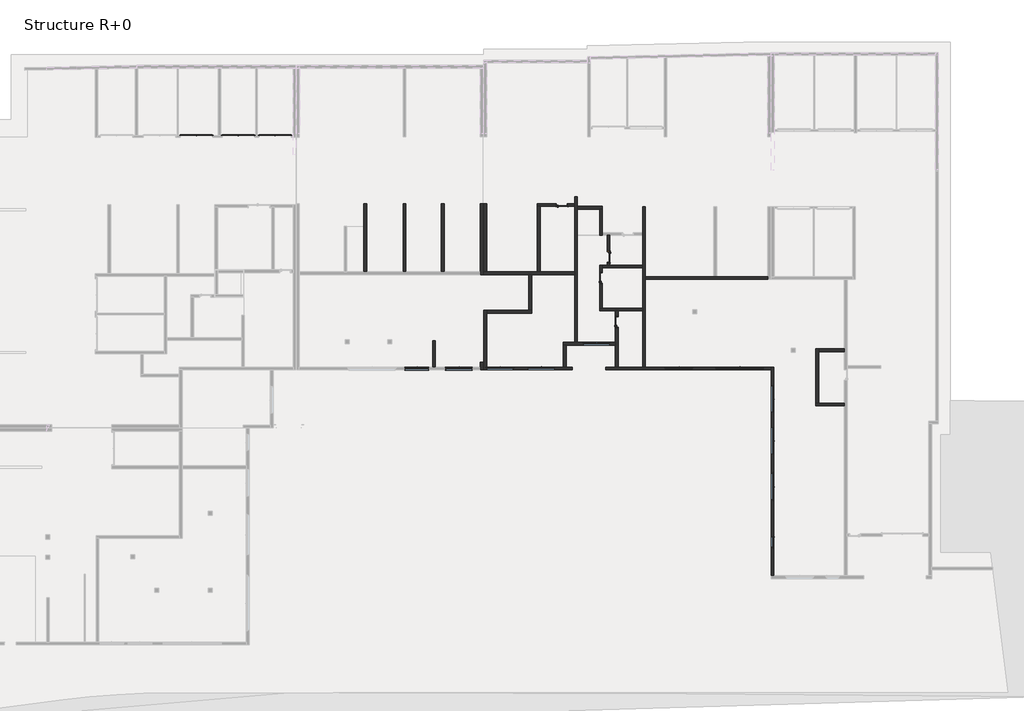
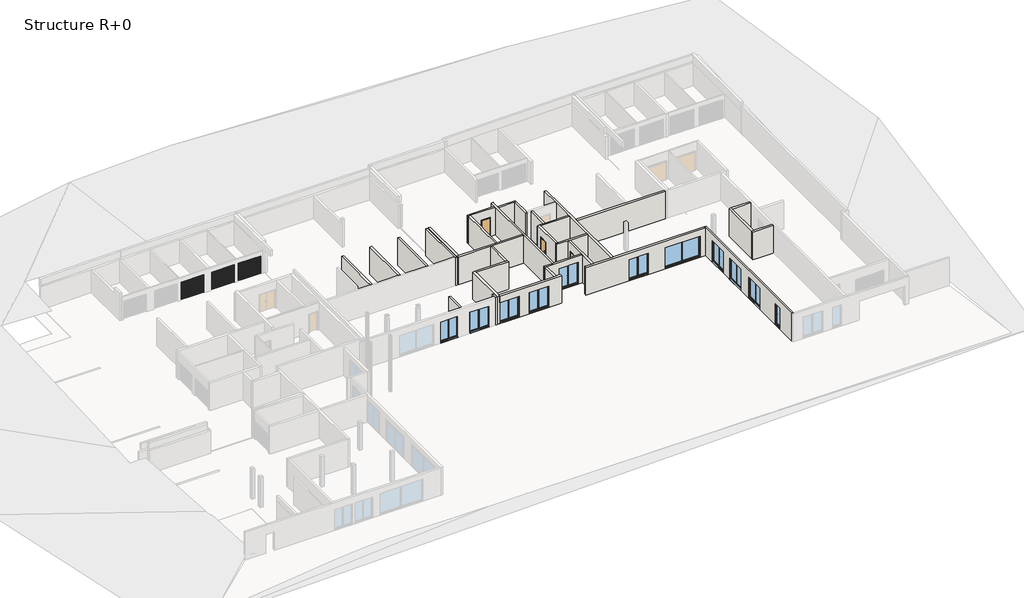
# One storey, part 3 of 5: 31 walls, 11 windows, 7 doors.
"""IFC4 building model written with IfcOpenShell, lengths in millimetres."""

from ifc_helpers import new_model, si_unit, frame, origin, origin_with_axes, place, context, project, spatial, polyline, outline, extrude, faceted_brep, transform, mapped, element, save
from components import door_2_4m_x_2m_ca442cef, int_simple_pp_0_83m_x_2_04m_d9e52805, int_simple_pp_0_83m_x_2_04m_469df17f, int_simple_pp_0_83m_x_2_04m_462b1650, window_0_80m_x_2_25m_5dfc30a4, window_1_80m_x_2_25m_6a560d0c, window_2_00m_x_2_35m_2ed9f70e, window_2m_x_2_25m_73eb5746, window_3_6m_x_2_25m_d801bdb7

model = new_model("IFC4")

# Units and contexts
model_context = context("Model", 3, world=origin())
ifc_project = project(units=[si_unit("LENGTHUNIT", "METRE", prefix="MILLI")], contexts=[model_context])

# Site, building, storey
site = spatial("IfcSite", under=ifc_project)
building = spatial("IfcBuilding", under=site)
storey = spatial("IfcBuildingStorey", under=building, Name="Structure R+0", Elevation=0.0)

# Doors
placement = place(None, origin())
door_2_4m_x_2m_shape = door_2_4m_x_2m_ca442cef(model_context)
element("IfcDoor", 1, ObjectType="Garage basculante : 2.4m x 2m", at=placement, inside=storey, context=model_context, shape_type="MappedRepresentation", body=[
    mapped(door_2_4m_x_2m_shape, transform((22246.2848609, 31548.8556304, 0.0), x_axis=(-1.0, 0.0, 0.0), y_axis=(0.0, -1.0, 0.0), z_axis=(0.0, 0.0, 1.0))),
])
element("IfcDoor", 2, ObjectType="Garage basculante : 2.4m x 2m", at=placement, inside=storey, context=model_context, shape_type="MappedRepresentation", body=[
    mapped(door_2_4m_x_2m_shape, transform((19494.2795115, 31548.8556304, 0.0), x_axis=(-1.0, 0.0, 0.0), y_axis=(0.0, -1.0, 0.0), z_axis=(0.0, 0.0, 1.0))),
])
element("IfcDoor", 3, ObjectType="Garage basculante : 2.4m x 2m", at=placement, inside=storey, context=model_context, shape_type="MappedRepresentation", body=[
    mapped(door_2_4m_x_2m_shape, transform((16361.19903, 31548.8556304, 0.0), x_axis=(-1.0, 0.0, 0.0), y_axis=(0.0, -1.0, 0.0), z_axis=(0.0, 0.0, 1.0))),
])
int_simple_pp_0_83m_x_2_04m_shape = int_simple_pp_0_83m_x_2_04m_d9e52805(model_context)
element("IfcDoor", 4, ObjectType="Int. Simple : PP (0.83m x 2.04m)", at=placement, inside=storey, context=model_context, shape_type="MappedRepresentation", body=[
    mapped(int_simple_pp_0_83m_x_2_04m_shape, transform((47187.0291518, 22857.2599127, 0.0), x_axis=(0.0, -1.0, 0.0), y_axis=(1.0, 0.0, 0.0), z_axis=(0.0, 0.0, 1.0))),
])
int_simple_pp_0_83m_x_2_04m_2_shape = int_simple_pp_0_83m_x_2_04m_469df17f(model_context)
element("IfcDoor", 5, ObjectType="Int. Simple : PP (0.83m x 2.04m)", at=placement, inside=storey, context=model_context, shape_type="MappedRepresentation", body=[
    mapped(int_simple_pp_0_83m_x_2_04m_2_shape, transform((46617.9132164, 21347.2599127, 0.0), x_axis=(0.0, 1.0, 0.0), y_axis=(-1.0, 0.0, 0.0), z_axis=(0.0, 0.0, 1.0))),
])
element("IfcDoor", 6, ObjectType="Int. Simple : PP (0.83m x 2.04m)", at=placement, inside=storey, context=model_context, shape_type="MappedRepresentation", body=[
    mapped(int_simple_pp_0_83m_x_2_04m_shape, transform((47787.5546594, 18058.9667397, 0.0), x_axis=(0.0, 1.0, 0.0), y_axis=(-1.0, 0.0, 0.0), z_axis=(0.0, 0.0, 1.0))),
])
int_simple_pp_0_83m_x_2_04m_3_shape = int_simple_pp_0_83m_x_2_04m_462b1650(model_context)
element("IfcDoor", 7, ObjectType="Int. Simple : PP (0.83m x 2.04m)", at=placement, inside=storey, context=model_context, shape_type="MappedRepresentation", body=[
    mapped(int_simple_pp_0_83m_x_2_04m_3_shape, transform((43722.2462422, 26757.7811664, 0.0), x_axis=(1.0, 0.0, 0.0), y_axis=(0.0, 1.0, 0.0), z_axis=(0.0, 0.0, 1.0))),
])

# Walls
element("IfcWall", 8, ObjectType="Ext. Voile BA 18", at=placement, inside=storey, context=model_context, shape_type="Brep", body=[
    faceted_brep([(46707.9132164, 22272.2599127, 3030.0), (46707.9132164, 22092.2599127, 3030.0), (46707.9132164, 19065.2786309, 3030.0), (46707.9132164, 19065.2786309, 0.0), (46707.9132164, 20862.2599127, 0.0), (46707.9132164, 20862.2599127, 2075.0), (46707.9132164, 21762.2599127, 2075.0), (46707.9132164, 21762.2599127, 0.0), (46707.9132164, 22092.2599127, 0.0), (46707.9132164, 22272.2599127, 0.0), (46527.9132164, 19065.2786309, 3030.0), (46527.9132164, 22272.2599127, 3030.0), (46527.9132164, 22272.2599127, 0.0), (46527.9132164, 21762.2599127, 0.0), (46527.9132164, 21762.2599127, 2075.0), (46527.9132164, 20862.2599127, 2075.0), (46527.9132164, 20862.2599127, 0.0), (46527.9132164, 19065.2786309, 0.0)], [[[0, 1, 2, 3, 4, 5, 6, 7, 8, 9]], [[10, 11, 12, 13, 14, 15, 16, 17]], [[3, 17, 16, 4]], [[12, 9, 8, 7, 13]], [[2, 1, 0, 11, 10]], [[3, 2, 10, 17]], [[0, 9, 12, 11]], [[6, 14, 13, 7]], [[14, 6, 5, 15]], [[15, 5, 4, 16]]]),
])
element("IfcWall", 9, ObjectType="Ext. Voile BA 18", at=placement, inside=storey, context=model_context, shape_type="Brep", body=[
    faceted_brep([(49724.9149229, 22272.2599127, 0.0), (47287.0291518, 22272.2599127, 0.0), (47087.0291518, 22272.2599127, 0.0), (46707.9132164, 22272.2599127, 0.0), (46707.9132164, 22272.2599127, 3030.0), (47087.0291518, 22272.2599127, 3030.0), (47287.0291518, 22272.2599127, 3030.0), (49724.9149229, 22272.2599127, 3030.0), (49724.9149229, 22092.2599127, 0.0), (49724.9149229, 22092.2599127, 3030.0), (46707.9132164, 22092.2599127, 3030.0), (46707.9132164, 22092.2599127, 0.0)], [[[0, 1, 2, 3, 4, 5, 6, 7]], [[8, 9, 10, 11]], [[3, 2, 1, 0, 8, 11]], [[7, 6, 5, 4, 10, 9]], [[4, 3, 11, 10]], [[0, 7, 9, 8]]]),
])
element("IfcWall", 10, ObjectType="Ext. Voile BA 20", at=placement, inside=storey, context=model_context, shape_type="SweptSolid", body=[
    extrude(outline(polyline([(34232.3966699, 16611.4012934), (34232.3966699, 14642.6998135), (34032.3966699, 14642.6998135), (34032.3966699, 16611.4012934), (34232.3966699, 16611.4012934)])), origin_with_axes(), (0.0, 0.0, 1.0), 3030.0),
])
element("IfcWall", 11, ObjectType="Ext. Voile BA 20", at=placement, inside=storey, context=model_context, shape_type="SweptSolid", body=[
    extrude(outline(polyline([(64812.3933514, 15809.2539559), (62872.0153589, 15809.2539559), (62872.0153589, 16009.2539559), (64812.3933514, 16009.2539559), (64812.3933514, 15809.2539559)])), origin_with_axes(), (0.0, 0.0, 1.0), 3030.0),
])
element("IfcWall", 12, ObjectType="Ext. Voile BA 20", at=placement, inside=storey, context=model_context, shape_type="Brep", body=[
    faceted_brep([(47687.5546594, 16492.6881549, 0.0), (44857.2462422, 16492.6881549, 0.0), (44657.2462422, 16492.6881549, 0.0), (43807.5546594, 16492.6881549, 0.0), (43807.5546594, 16492.6881549, 3030.0), (44657.2462422, 16492.6881549, 3030.0), (44857.2462422, 16492.6881549, 3030.0), (47687.5546594, 16492.6881549, 3030.0), (45222.4004508, 16492.6881549, 35.0), (47322.4004508, 16492.6881549, 35.0), (47322.4004508, 16492.6881549, 2435.0), (45222.4004508, 16492.6881549, 2435.0), (47687.5546594, 16292.6881549, 0.0), (47687.5546594, 16292.6881549, 3030.0), (44007.5546594, 16292.6881549, 3030.0), (43807.5546594, 16292.6881549, 3030.0), (43807.5546594, 16292.6881549, 0.0), (44007.5546594, 16292.6881549, 0.0), (47272.4004508, 16292.6881549, 2385.0), (47272.4004508, 16292.6881549, 22.3874918), (45272.4004508, 16292.6881549, 22.3874918), (45272.4004508, 16292.6881549, 2385.0), (47272.4004508, 16412.6881549, 35.0), (47272.4004508, 16392.6881549, 2385.0), (47272.4004508, 16392.6881549, 35.0), (45272.4004508, 16412.6881549, 35.0), (45272.4004508, 16392.6881549, 35.0), (45272.4004508, 16392.6881549, 2385.0), (47282.4004508, 16392.6881549, 35.0), (47282.4004508, 16442.6881549, 35.0), (47322.4004508, 16442.6881549, 35.0), (45222.4004508, 16442.6881549, 35.0), (45262.4004508, 16442.6881549, 35.0), (45262.4004508, 16392.6881549, 35.0), (47322.4004508, 16442.6881549, 2435.0), (47282.4004508, 16442.6881549, 2395.0), (45262.4004508, 16442.6881549, 2395.0), (45222.4004508, 16442.6881549, 2435.0), (47282.4004508, 16392.6881549, 2395.0), (45262.4004508, 16392.6881549, 2395.0)], [[[0, 1, 2, 3, 4, 5, 6, 7], [8, 9, 10, 11]], [[12, 13, 14, 15, 16, 17], [18, 19, 20, 21]], [[3, 2, 1, 0, 12, 17, 16]], [[7, 6, 5, 4, 15, 14, 13]], [[0, 7, 13, 12]], [[4, 3, 16, 15]], [[22, 19, 18, 23, 24]], [[20, 25, 26, 27, 21]], [[22, 25, 20, 19]], [[18, 21, 27, 23]], [[25, 22, 24, 28, 29, 30, 9, 8, 31, 32, 33, 26]], [[9, 30, 34, 10]], [[30, 29, 35, 36, 32, 31, 37, 34]], [[29, 28, 38, 35]], [[28, 24, 23, 27, 26, 33, 39, 38]], [[10, 34, 37, 11]], [[36, 35, 38, 39]], [[37, 31, 8, 11]], [[32, 36, 39, 33]]]),
])
element("IfcWall", 13, ObjectType="Ext. Voile BA 20", at=placement, inside=storey, context=model_context, shape_type="SweptSolid", body=[
    extrude(outline(polyline([(43807.5546594, 14652.6998135), (43807.5546594, 16292.6881549), (44007.5546594, 16292.6881549), (44007.5546594, 14652.6998135), (43807.5546594, 14652.6998135)])), origin_with_axes(), (0.0, 0.0, 1.0), 3030.0),
])
element("IfcWall", 14, ObjectType="Ext. Voile BA 20", at=placement, inside=storey, context=model_context, shape_type="SweptSolid", body=[
    extrude(outline(polyline([(22272.2599127, 3030.0), (24500.9913711, 3030.0), (24500.9913711, 0.0), (23342.2599127, 0.0), (23342.2599127, 2075.0), (22442.2599127, 2075.0), (22442.2599127, 0.0), (22272.2599127, 0.0), (22272.2599127, 3030.0)])), frame((47087.0291518, 0.0, 0.0), z_axis=(1.0, 0.0, 0.0), x_axis=(0.0, 1.0, 0.0)), (0.0, 0.0, 1.0), 200.0),
])
element("IfcWall", 15, ObjectType="Ext. Voile BA 20", at=placement, inside=storey, context=model_context, shape_type="Brep", body=[
    faceted_brep([(49924.9149229, 21216.8311178, 0.0), (59092.1504559, 21216.8311178, 0.0), (59092.1504559, 21216.8311178, 3030.0), (49924.9149229, 21216.8311178, 3030.0), (49924.9149229, 21416.8311178, 0.0), (49924.9149229, 21416.8311178, 3030.0), (55055.0088791, 21416.8311178, 3030.0), (55255.0088791, 21416.8311178, 3030.0), (59092.1504559, 21416.8311178, 3030.0), (59092.1504559, 21416.8311178, 0.0), (55255.0088791, 21416.8311178, 0.0), (55055.0088791, 21416.8311178, 0.0)], [[[0, 1, 2, 3]], [[4, 5, 6, 7, 8, 9, 10, 11]], [[1, 0, 4, 11, 10, 9]], [[3, 2, 8, 7, 6, 5]], [[2, 1, 9, 8]], [[0, 3, 5, 4]]]),
])
element("IfcWall", 16, ObjectType="Ext. Voile BA 20 + 2 enduit", at=placement, inside=storey, context=model_context, shape_type="Brep", body=[
    faceted_brep([(59542.9059955, -947.3118451, 0.0), (59542.9059955, 14647.8264154, 0.0), (59542.9059955, 14647.8264154, 3030.0), (59542.9059955, -947.3118451, 3030.0), (59542.9059955, 2022.6881549, 70.0), (59542.9059955, 1122.6881549, 70.0), (59542.9059955, 1122.6881549, 2370.0), (59542.9059955, 2022.6881549, 2370.0), (59542.9059955, 6777.955072, 70.0), (59542.9059955, 4677.955072, 70.0), (59542.9059955, 4677.955072, 2370.0), (59542.9059955, 6777.955072, 2370.0), (59542.9059955, 10197.955072, 70.0), (59542.9059955, 8097.955072, 70.0), (59542.9059955, 8097.955072, 2370.0), (59542.9059955, 10197.955072, 2370.0), (59542.9059955, 13330.5941452, 70.0), (59542.9059955, 11230.5941452, 70.0), (59542.9059955, 11230.5941452, 2370.0), (59542.9059955, 13330.5941452, 2370.0), (59342.9059955, -947.3118451, 0.0), (59342.9059955, -947.3118451, 3030.0), (59342.9059955, 14447.8264154, 3030.0), (59342.9059955, 14647.8264154, 3030.0), (59342.9059955, 14647.8264154, 0.0), (59342.9059955, 14447.8264154, 0.0), (59342.9059955, 1972.6881549, 57.3874918), (59342.9059955, 1972.6881549, 2320.0), (59342.9059955, 1172.6881549, 2320.0), (59342.9059955, 1172.6881549, 57.3874918), (59342.9059955, 6727.955072, 57.3874918), (59342.9059955, 6727.955072, 2320.0), (59342.9059955, 4727.955072, 2320.0), (59342.9059955, 4727.955072, 57.3874918), (59342.9059955, 10147.955072, 57.3874918), (59342.9059955, 10147.955072, 2320.0), (59342.9059955, 8147.955072, 2320.0), (59342.9059955, 8147.955072, 57.3874918), (59342.9059955, 13280.5941452, 57.3874918), (59342.9059955, 13280.5941452, 2320.0), (59342.9059955, 11280.5941452, 2320.0), (59342.9059955, 11280.5941452, 57.3874918), (59462.9059955, 1972.6881549, 70.0), (59442.9059955, 1972.6881549, 70.0), (59442.9059955, 1972.6881549, 2320.0), (59442.9059955, 1172.6881549, 2320.0), (59442.9059955, 1172.6881549, 70.0), (59462.9059955, 1172.6881549, 70.0), (59442.9059955, 1162.6881549, 70.0), (59492.9059955, 1162.6881549, 70.0), (59492.9059955, 1122.6881549, 70.0), (59492.9059955, 2022.6881549, 70.0), (59492.9059955, 1982.6881549, 70.0), (59442.9059955, 1982.6881549, 70.0), (59492.9059955, 2022.6881549, 2370.0), (59492.9059955, 1122.6881549, 2370.0), (59492.9059955, 1162.6881549, 2330.0), (59492.9059955, 1982.6881549, 2330.0), (59442.9059955, 1982.6881549, 2330.0), (59442.9059955, 1162.6881549, 2330.0), (59462.9059955, 6727.955072, 70.0), (59442.9059955, 6727.955072, 70.0), (59442.9059955, 6727.955072, 2320.0), (59442.9059955, 4727.955072, 2320.0), (59442.9059955, 4727.955072, 70.0), (59462.9059955, 4727.955072, 70.0), (59442.9059955, 4717.955072, 70.0), (59492.9059955, 4717.955072, 70.0), (59492.9059955, 4677.955072, 70.0), (59492.9059955, 6777.955072, 70.0), (59492.9059955, 6737.955072, 70.0), (59442.9059955, 6737.955072, 70.0), (59492.9059955, 6777.955072, 2370.0), (59492.9059955, 4677.955072, 2370.0), (59492.9059955, 4717.955072, 2330.0), (59492.9059955, 6737.955072, 2330.0), (59442.9059955, 6737.955072, 2330.0), (59442.9059955, 4717.955072, 2330.0), (59462.9059955, 10147.955072, 70.0), (59442.9059955, 10147.955072, 70.0), (59442.9059955, 10147.955072, 2320.0), (59442.9059955, 8147.955072, 2320.0), (59442.9059955, 8147.955072, 70.0), (59462.9059955, 8147.955072, 70.0), (59442.9059955, 8137.955072, 70.0), (59492.9059955, 8137.955072, 70.0), (59492.9059955, 8097.955072, 70.0), (59492.9059955, 10197.955072, 70.0), (59492.9059955, 10157.955072, 70.0), (59442.9059955, 10157.955072, 70.0), (59492.9059955, 10197.955072, 2370.0), (59492.9059955, 8097.955072, 2370.0), (59492.9059955, 8137.955072, 2330.0), (59492.9059955, 10157.955072, 2330.0), (59442.9059955, 10157.955072, 2330.0), (59442.9059955, 8137.955072, 2330.0), (59462.9059955, 13280.5941452, 70.0), (59442.9059955, 13280.5941452, 70.0), (59442.9059955, 13280.5941452, 2320.0), (59442.9059955, 11280.5941452, 2320.0), (59442.9059955, 11280.5941452, 70.0), (59462.9059955, 11280.5941452, 70.0), (59442.9059955, 11270.5941452, 70.0), (59492.9059955, 11270.5941452, 70.0), (59492.9059955, 11230.5941452, 70.0), (59492.9059955, 13330.5941452, 70.0), (59492.9059955, 13290.5941452, 70.0), (59442.9059955, 13290.5941452, 70.0), (59492.9059955, 13330.5941452, 2370.0), (59492.9059955, 11230.5941452, 2370.0), (59492.9059955, 11270.5941452, 2330.0), (59492.9059955, 13290.5941452, 2330.0), (59442.9059955, 13290.5941452, 2330.0), (59442.9059955, 11270.5941452, 2330.0)], [[[0, 1, 2, 3], [4, 5, 6, 7], [8, 9, 10, 11], [12, 13, 14, 15], [16, 17, 18, 19]], [[20, 21, 22, 23, 24, 25], [26, 27, 28, 29], [30, 31, 32, 33], [34, 35, 36, 37], [38, 39, 40, 41]], [[1, 0, 20, 25, 24]], [[3, 2, 23, 22, 21]], [[0, 3, 21, 20]], [[2, 1, 24, 23]], [[42, 43, 44, 27, 26]], [[29, 28, 45, 46, 47]], [[42, 26, 29, 47]], [[27, 44, 45, 28]], [[47, 46, 48, 49, 50, 5, 4, 51, 52, 53, 43, 42]], [[4, 7, 54, 51]], [[51, 54, 55, 50, 49, 56, 57, 52]], [[52, 57, 58, 53]], [[53, 58, 59, 48, 46, 45, 44, 43]], [[7, 6, 55, 54]], [[56, 59, 58, 57]], [[55, 6, 5, 50]], [[49, 48, 59, 56]], [[60, 61, 62, 31, 30]], [[33, 32, 63, 64, 65]], [[60, 30, 33, 65]], [[31, 62, 63, 32]], [[65, 64, 66, 67, 68, 9, 8, 69, 70, 71, 61, 60]], [[8, 11, 72, 69]], [[69, 72, 73, 68, 67, 74, 75, 70]], [[70, 75, 76, 71]], [[71, 76, 77, 66, 64, 63, 62, 61]], [[11, 10, 73, 72]], [[74, 77, 76, 75]], [[73, 10, 9, 68]], [[67, 66, 77, 74]], [[78, 79, 80, 35, 34]], [[37, 36, 81, 82, 83]], [[78, 34, 37, 83]], [[35, 80, 81, 36]], [[83, 82, 84, 85, 86, 13, 12, 87, 88, 89, 79, 78]], [[12, 15, 90, 87]], [[87, 90, 91, 86, 85, 92, 93, 88]], [[88, 93, 94, 89]], [[89, 94, 95, 84, 82, 81, 80, 79]], [[15, 14, 91, 90]], [[92, 95, 94, 93]], [[91, 14, 13, 86]], [[85, 84, 95, 92]], [[96, 97, 98, 39, 38]], [[41, 40, 99, 100, 101]], [[96, 38, 41, 101]], [[39, 98, 99, 40]], [[101, 100, 102, 103, 104, 17, 16, 105, 106, 107, 97, 96]], [[16, 19, 108, 105]], [[105, 108, 109, 104, 103, 110, 111, 106]], [[106, 111, 112, 107]], [[107, 112, 113, 102, 100, 99, 98, 97]], [[19, 18, 109, 108]], [[110, 113, 112, 111]], [[109, 18, 17, 104]], [[103, 102, 113, 110]]]),
])
element("IfcWall", 17, ObjectType="Ext. Voile BA 20 + 2 enduit", at=placement, inside=storey, context=model_context, shape_type="Brep", body=[
    faceted_brep([(59342.9059955, 14647.8264154, 0.0), (49924.9149229, 14647.8264154, 0.0), (49724.9149229, 14647.8264154, 0.0), (47887.5546594, 14647.8264154, 0.0), (47687.5546594, 14647.8264154, 0.0), (46963.8975177, 14647.8264154, 0.0), (46963.8975177, 14647.8264154, 3030.0), (47687.5546594, 14647.8264154, 3030.0), (47887.5546594, 14647.8264154, 3030.0), (49724.9149229, 14647.8264154, 3030.0), (49924.9149229, 14647.8264154, 3030.0), (59342.9059955, 14647.8264154, 3030.0), (51379.9149229, 14647.8264154, 70.0), (53479.9149229, 14647.8264154, 70.0), (53479.9149229, 14647.8264154, 2370.0), (51379.9149229, 14647.8264154, 2370.0), (55131.1686241, 14647.8264154, 70.0), (58831.1686241, 14647.8264154, 70.0), (58831.1686241, 14647.8264154, 2370.0), (55131.1686241, 14647.8264154, 2370.0), (59342.9059955, 14447.8264154, 0.0), (59342.9059955, 14447.8264154, 3030.0), (46963.8975177, 14447.8264154, 3030.0), (46963.8975177, 14447.8264154, 0.0), (51429.9149229, 14447.8264154, 57.3874918), (51429.9149229, 14447.8264154, 2320.0), (53429.9149229, 14447.8264154, 2320.0), (53429.9149229, 14447.8264154, 57.3874918), (55181.1686241, 14447.8264154, 57.3874918), (55181.1686241, 14447.8264154, 2320.0), (58781.1686241, 14447.8264154, 2320.0), (58781.1686241, 14447.8264154, 57.3874918), (51429.9149229, 14567.8264154, 70.0), (51429.9149229, 14547.8264154, 70.0), (51429.9149229, 14547.8264154, 2320.0), (53429.9149229, 14547.8264154, 2320.0), (53429.9149229, 14547.8264154, 70.0), (53429.9149229, 14567.8264154, 70.0), (53439.9149229, 14547.8264154, 70.0), (53439.9149229, 14597.8264154, 70.0), (53479.9149229, 14597.8264154, 70.0), (51379.9149229, 14597.8264154, 70.0), (51419.9149229, 14597.8264154, 70.0), (51419.9149229, 14547.8264154, 70.0), (51379.9149229, 14597.8264154, 2370.0), (53479.9149229, 14597.8264154, 2370.0), (53439.9149229, 14597.8264154, 2330.0), (51419.9149229, 14597.8264154, 2330.0), (51419.9149229, 14547.8264154, 2330.0), (53439.9149229, 14547.8264154, 2330.0), (55181.1686241, 14567.8264154, 70.0), (55181.1686241, 14547.8264154, 70.0), (55181.1686241, 14547.8264154, 2320.0), (58781.1686241, 14547.8264154, 2320.0), (58781.1686241, 14547.8264154, 70.0), (58781.1686241, 14567.8264154, 70.0), (58791.1686241, 14547.8264154, 70.0), (58791.1686241, 14597.8264154, 70.0), (58831.1686241, 14597.8264154, 70.0), (55131.1686241, 14597.8264154, 70.0), (55171.1686241, 14597.8264154, 70.0), (55171.1686241, 14547.8264154, 70.0), (55131.1686241, 14597.8264154, 2370.0), (58831.1686241, 14597.8264154, 2370.0), (58791.1686241, 14597.8264154, 2330.0), (55171.1686241, 14597.8264154, 2330.0), (55171.1686241, 14547.8264154, 2330.0), (58791.1686241, 14547.8264154, 2330.0)], [[[0, 1, 2, 3, 4, 5, 6, 7, 8, 9, 10, 11], [12, 13, 14, 15], [16, 17, 18, 19]], [[20, 21, 22, 23], [24, 25, 26, 27], [28, 29, 30, 31]], [[5, 4, 3, 2, 1, 0, 20, 23]], [[6, 5, 23, 22]], [[11, 10, 9, 8, 7, 6, 22, 21]], [[0, 11, 21, 20]], [[32, 33, 34, 25, 24]], [[27, 26, 35, 36, 37]], [[32, 24, 27, 37]], [[25, 34, 35, 26]], [[37, 36, 38, 39, 40, 13, 12, 41, 42, 43, 33, 32]], [[12, 15, 44, 41]], [[41, 44, 45, 40, 39, 46, 47, 42]], [[42, 47, 48, 43]], [[43, 48, 49, 38, 36, 35, 34, 33]], [[15, 14, 45, 44]], [[46, 49, 48, 47]], [[45, 14, 13, 40]], [[39, 38, 49, 46]], [[50, 51, 52, 29, 28]], [[31, 30, 53, 54, 55]], [[50, 28, 31, 55]], [[29, 52, 53, 30]], [[55, 54, 56, 57, 58, 17, 16, 59, 60, 61, 51, 50]], [[16, 19, 62, 59]], [[59, 62, 63, 58, 57, 64, 65, 60]], [[60, 65, 66, 61]], [[61, 66, 67, 56, 54, 53, 52, 51]], [[19, 18, 63, 62]], [[64, 67, 66, 65]], [[63, 18, 17, 58]], [[57, 56, 67, 64]]]),
])
element("IfcWall", 18, ObjectType="Ext. Voile BA 20 + 2 enduit", at=placement, inside=storey, context=model_context, shape_type="Brep", body=[
    faceted_brep([(44467.5546594, 14652.6998135, 0.0), (44007.5546594, 14652.6998135, 0.0), (43807.5546594, 14652.6998135, 0.0), (38068.7313075, 14652.6998135, 0.0), (38068.7313075, 14652.6998135, 70.0), (40068.7313075, 14652.6998135, 70.0), (40118.7313075, 14652.6998135, 70.0), (40118.7313075, 14652.6998135, 2370.0), (38068.7313075, 14652.6998135, 2370.0), (38068.7313075, 14652.6998135, 3030.0), (43807.5546594, 14652.6998135, 3030.0), (44007.5546594, 14652.6998135, 3030.0), (44467.5546594, 14652.6998135, 3030.0), (41097.5546594, 14652.6998135, 70.0), (43197.5546594, 14652.6998135, 70.0), (43197.5546594, 14652.6998135, 2370.0), (41097.5546594, 14652.6998135, 2370.0), (38068.7313075, 14452.6998135, 0.0), (44467.5546594, 14452.6998135, 0.0), (44467.5546594, 14452.6998135, 3030.0), (38068.7313075, 14452.6998135, 3030.0), (38068.7313075, 14452.6998135, 2320.0), (40068.7313075, 14452.6998135, 2320.0), (40068.7313075, 14452.6998135, 57.3874918), (38068.7313075, 14452.6998135, 57.3874918), (41147.5546594, 14452.6998135, 57.3874918), (41147.5546594, 14452.6998135, 2320.0), (43147.5546594, 14452.6998135, 2320.0), (43147.5546594, 14452.6998135, 57.3874918), (38068.7313075, 14572.6998135, 70.0), (38068.7313075, 14602.6998135, 2370.0), (38068.7313075, 14602.6998135, 2330.0), (38068.7313075, 14552.6998135, 2330.0), (38068.7313075, 14552.6998135, 2320.0), (40068.7313075, 14552.6998135, 2320.0), (40068.7313075, 14552.6998135, 70.0), (40068.7313075, 14572.6998135, 70.0), (40078.7313075, 14552.6998135, 70.0), (40078.7313075, 14602.6998135, 70.0), (40118.7313075, 14602.6998135, 70.0), (40078.7313075, 14602.6998135, 2330.0), (40118.7313075, 14602.6998135, 2370.0), (40078.7313075, 14552.6998135, 2330.0), (41147.5546594, 14572.6998135, 70.0), (41147.5546594, 14552.6998135, 70.0), (41147.5546594, 14552.6998135, 2320.0), (43147.5546594, 14552.6998135, 2320.0), (43147.5546594, 14552.6998135, 70.0), (43147.5546594, 14572.6998135, 70.0), (43157.5546594, 14552.6998135, 70.0), (43157.5546594, 14602.6998135, 70.0), (43197.5546594, 14602.6998135, 70.0), (41097.5546594, 14602.6998135, 70.0), (41137.5546594, 14602.6998135, 70.0), (41137.5546594, 14552.6998135, 70.0), (41097.5546594, 14602.6998135, 2370.0), (43197.5546594, 14602.6998135, 2370.0), (43157.5546594, 14602.6998135, 2330.0), (41137.5546594, 14602.6998135, 2330.0), (41137.5546594, 14552.6998135, 2330.0), (43157.5546594, 14552.6998135, 2330.0)], [[[0, 1, 2, 3, 4, 5, 6, 7, 8, 9, 10, 11, 12], [13, 14, 15, 16]], [[17, 18, 19, 20, 21, 22, 23, 24], [25, 26, 27, 28]], [[3, 2, 1, 0, 18, 17]], [[12, 11, 10, 9, 20, 19]], [[0, 12, 19, 18]], [[3, 17, 24, 29, 4]], [[20, 9, 8, 30, 31, 32, 33, 21]], [[34, 35, 36, 23, 22]], [[36, 35, 37, 38, 39, 6, 5, 4, 29]], [[33, 34, 22, 21]], [[36, 29, 24, 23]], [[39, 38, 40, 31, 30, 41]], [[35, 34, 33, 32, 42, 37]], [[7, 41, 30, 8]], [[40, 42, 32, 31]], [[6, 39, 41, 7]], [[38, 37, 42, 40]], [[43, 44, 45, 26, 25]], [[28, 27, 46, 47, 48]], [[43, 25, 28, 48]], [[26, 45, 46, 27]], [[48, 47, 49, 50, 51, 14, 13, 52, 53, 54, 44, 43]], [[13, 16, 55, 52]], [[52, 55, 56, 51, 50, 57, 58, 53]], [[53, 58, 59, 54]], [[54, 59, 60, 49, 47, 46, 45, 44]], [[16, 15, 56, 55]], [[57, 60, 59, 58]], [[56, 15, 14, 51]], [[50, 49, 60, 57]]]),
])
element("IfcWall", 19, ObjectType="Voile BA 20", at=placement, inside=storey, context=model_context, shape_type="Brep", body=[
    faceted_brep([(37608.398272, 26857.8211921, 0.0), (37608.398272, 21772.7235205, 0.0), (37608.398272, 21572.7235205, 0.0), (37608.398272, 21572.7235205, 3030.0), (37608.398272, 21772.7235205, 3030.0), (37608.398272, 26857.8211921, 3030.0), (37808.398272, 26857.8211921, 0.0), (37808.398272, 26857.8211921, 3030.0), (37808.398272, 21572.7235205, 3030.0), (37808.398272, 21572.7235205, 0.0), (37807.390788, 26857.8211921, 3030.0), (37807.390788, 21572.7235205, 3030.0)], [[[0, 1, 2, 3, 4, 5]], [[6, 7, 8, 9]], [[2, 1, 0, 6, 9]], [[0, 5, 10, 7, 6]], [[3, 2, 9, 8, 11]], [[11, 8, 7, 10]], [[5, 4, 3, 11, 10]]]),
])
element("IfcWall", 20, ObjectType="Voile BA 20", at=placement, inside=storey, context=model_context, shape_type="Brep", body=[
    faceted_brep([(29098.2960148, 21772.7235205, 0.0), (29098.2960148, 26872.7235205, 0.0), (29098.2960148, 26872.7235205, 3030.0), (29098.2960148, 21772.7235205, 3030.0), (28898.2960148, 21772.7235205, 0.0), (28898.2960148, 21772.7235205, 3030.0), (28898.2960148, 22272.4973448, 3030.0), (28898.2960148, 25007.8260092, 3030.0), (28898.2960148, 26872.7235205, 3030.0), (28898.2960148, 26872.7235205, 0.0)], [[[0, 1, 2, 3]], [[4, 5, 6, 7, 8, 9]], [[1, 0, 4, 9]], [[2, 1, 9, 8]], [[0, 3, 5, 4]], [[3, 2, 8, 7, 6, 5]]]),
])
element("IfcWall", 21, ObjectType="Voile BA 20", at=placement, inside=storey, context=model_context, shape_type="SweptSolid", body=[
    extrude(outline(polyline([(32028.7712439, 26872.7235205), (32028.7712439, 21772.7235205), (31828.7712439, 21772.7235205), (31828.7712439, 26872.7235205), (32028.7712439, 26872.7235205)])), origin_with_axes(), (0.0, 0.0, 1.0), 3030.0),
])
element("IfcWall", 22, ObjectType="Voile BA 20", at=placement, inside=storey, context=model_context, shape_type="SweptSolid", body=[
    extrude(outline(polyline([(34893.7772107, 26872.7235205), (34893.7772107, 21772.7235205), (34693.7772107, 21772.7235205), (34693.7772107, 26872.7235205), (34893.7772107, 26872.7235205)])), origin_with_axes(), (0.0, 0.0, 1.0), 3030.0),
])
element("IfcWall", 23, ObjectType="Voile BA 20", at=placement, inside=storey, context=model_context, shape_type="SweptSolid", body=[
    extrude(outline(polyline([(0.0, 37808.3960659), (3030.0, 37808.3960659), (3030.0, 37807.390788), (3030.0, 37608.3960659), (0.0, 37608.3960659), (0.0, 37808.3960659)])), frame((0.0, 14442.6998135, 0.0), z_axis=(0.0, 1.0, 0.0), x_axis=(0.0, 0.0, 1.0)), (0.0, 0.0, 1.0), 577.0),
])
element("IfcWall", 24, ObjectType="Voile BA 20", at=placement, inside=storey, context=model_context, shape_type="Brep", body=[
    faceted_brep([(64812.3933514, 11949.2539559, 0.0), (62872.0153589, 11949.2539559, 0.0), (62672.0153589, 11949.2539559, 0.0), (62672.0153589, 11949.2539559, 3030.0), (62872.0153589, 11949.2539559, 3030.0), (64812.3933514, 11949.2539559, 3030.0), (64812.3933514, 11749.2539559, 0.0), (64812.3933514, 11749.2539559, 3030.0), (62672.0153589, 11749.2539559, 3030.0), (62672.0153589, 11749.2539559, 0.0)], [[[0, 1, 2, 3, 4, 5]], [[6, 7, 8, 9]], [[2, 1, 0, 6, 9]], [[5, 4, 3, 8, 7]], [[0, 5, 7, 6]], [[3, 2, 9, 8]]]),
])
element("IfcWall", 25, ObjectType="Voile BA 20", at=placement, inside=storey, context=model_context, shape_type="Brep", body=[
    faceted_brep([(62872.0153589, 11949.2539559, 0.0), (62872.0153589, 15809.2539559, 0.0), (62872.0153589, 16009.2539559, 0.0), (62872.0153589, 16009.2539559, 3030.0), (62872.0153589, 15809.2539559, 3030.0), (62872.0153589, 11949.2539559, 3030.0), (62672.0153589, 11949.2539559, 0.0), (62672.0153589, 11949.2539559, 3030.0), (62672.0153589, 16009.2539559, 3030.0), (62672.0153589, 16009.2539559, 0.0)], [[[0, 1, 2, 3, 4, 5]], [[6, 7, 8, 9]], [[2, 1, 0, 6, 9]], [[5, 4, 3, 8, 7]], [[0, 5, 7, 6]], [[3, 2, 9, 8]]]),
])
element("IfcWall", 26, ObjectType="Voile BA 20", at=placement, inside=storey, context=model_context, shape_type="Brep", body=[
    faceted_brep([(38068.7313075, 14452.6998135, 0.0), (38068.7313075, 14652.6998135, 0.0), (38068.7313075, 18692.1677314, 0.0), (38068.7313075, 18892.1677314, 0.0), (38068.7313075, 18892.1677314, 3030.0), (38068.7313075, 18692.1677314, 3030.0), (38068.7313075, 14652.6998135, 3030.0), (38068.7313075, 14452.6998135, 3030.0), (38068.7313075, 14452.6998135, 2320.0), (38068.7313075, 14452.6998135, 57.3874918), (38068.7313075, 14572.6998135, 70.0), (38068.7313075, 14552.6998135, 70.0), (38068.7313075, 14552.6998135, 2320.0), (38068.7313075, 14552.6998135, 2330.0), (38068.7313075, 14602.6998135, 2330.0), (38068.7313075, 14602.6998135, 2370.0), (38068.7313075, 14652.6998135, 2370.0), (38068.7313075, 14652.6998135, 2320.0), (38068.7313075, 14652.6998135, 70.0), (37868.7313075, 18892.1677314, 0.0), (37868.7313075, 14452.6998135, 0.0), (37868.7313075, 14452.6998135, 3030.0), (37868.7313075, 18892.1677314, 3030.0), (38018.7313075, 14652.6998135, 70.0), (38018.7313075, 14602.6998135, 70.0), (38058.7313075, 14602.6998135, 70.0), (38058.7313075, 14552.6998135, 70.0), (38018.7313075, 14652.6998135, 2370.0), (38018.7313075, 14602.6998135, 2370.0), (38058.7313075, 14602.6998135, 2330.0), (38058.7313075, 14552.6998135, 2330.0)], [[[0, 1, 2, 3, 4, 5, 6, 7, 8, 9], [10, 11, 12, 13, 14, 15, 16, 17, 18]], [[19, 20, 21, 22]], [[3, 2, 1, 0, 20, 19]], [[7, 6, 5, 4, 22, 21]], [[4, 3, 19, 22]], [[7, 21, 20, 0, 9, 8]], [[18, 23, 24, 25, 26, 11, 10]], [[24, 23, 27, 28]], [[25, 24, 28, 15, 14, 29]], [[26, 25, 29, 30]], [[11, 26, 30, 13, 12]], [[23, 18, 17, 16, 27]], [[28, 27, 16, 15]], [[30, 29, 14, 13]]]),
])
element("IfcWall", 27, ObjectType="Voile BA 20", at=placement, inside=storey, context=model_context, shape_type="Brep", body=[
    faceted_brep([(38068.7313075, 18692.1677314, 0.0), (41428.6220947, 18692.1677314, 0.0), (41428.6220947, 18692.1677314, 3030.0), (38068.7313075, 18692.1677314, 3030.0), (38068.7313075, 18892.1677314, 0.0), (38068.7313075, 18892.1677314, 3030.0), (41228.6220947, 18892.1677314, 3030.0), (41428.6220947, 18892.1677314, 3030.0), (41428.6220947, 18892.1677314, 0.0), (41228.6220947, 18892.1677314, 0.0)], [[[0, 1, 2, 3]], [[4, 5, 6, 7, 8, 9]], [[1, 0, 4, 9, 8]], [[3, 2, 7, 6, 5]], [[0, 3, 5, 4]], [[2, 1, 8, 7]]]),
])
element("IfcWall", 28, ObjectType="Voile BA 20", at=placement, inside=storey, context=model_context, shape_type="SweptSolid", body=[
    extrude(outline(polyline([(41428.6220947, 21572.4950582), (41428.6220947, 18892.1677314), (41228.6220947, 18892.1677314), (41228.6220947, 21572.4950582), (41428.6220947, 21572.4950582)])), origin_with_axes(), (0.0, 0.0, 1.0), 3030.0),
])
element("IfcWall", 29, ObjectType="Voile BA 20", at=placement, inside=storey, context=model_context, shape_type="Brep", body=[
    faceted_brep([(37868.7313075, 21572.4950582, 0.0), (41228.6220947, 21572.4950582, 0.0), (41428.6220947, 21572.4950582, 0.0), (44657.2462422, 21572.4950582, 0.0), (44657.2462422, 21572.4950582, 3030.0), (41428.6220947, 21572.4950582, 3030.0), (41228.6220947, 21572.4950582, 3030.0), (37868.7313075, 21572.4950582, 3030.0), (37868.7313075, 21772.4950582, 0.0), (37868.7313075, 21772.4950582, 3030.0), (38068.7313075, 21772.4950582, 3030.0), (41866.5033212, 21772.4950582, 3030.0), (42066.5033212, 21772.4950582, 3030.0), (44657.2462422, 21772.4950582, 3030.0), (44657.2462422, 21772.4950582, 0.0), (42066.5033212, 21772.4950582, 0.0), (41866.5033212, 21772.4950582, 0.0), (38068.7313075, 21772.4950582, 0.0)], [[[0, 1, 2, 3, 4, 5, 6, 7]], [[8, 9, 10, 11, 12, 13, 14, 15, 16, 17]], [[3, 2, 1, 0, 8, 17, 16, 15, 14]], [[7, 6, 5, 4, 13, 12, 11, 10, 9]], [[4, 3, 14, 13]], [[0, 7, 9, 8]]]),
])
element("IfcWall", 30, ObjectType="Voile BA 20", at=placement, inside=storey, context=model_context, shape_type="Brep", body=[
    faceted_brep([(44857.2462422, 16492.6881549, 0.0), (44857.2462422, 26457.7796483, 0.0), (44857.2462422, 26657.7796483, 0.0), (44857.2462422, 27389.0932928, 0.0), (44857.2462422, 27389.0932928, 2720.0), (44857.2462422, 27389.0932928, 3030.0), (44857.2462422, 27376.5946511, 3030.0), (44857.2462422, 26657.7796483, 3030.0), (44857.2462422, 26457.7796483, 3030.0), (44857.2462422, 16492.6881549, 3030.0), (44657.2462422, 16492.6881549, 0.0), (44657.2462422, 16492.6881549, 3030.0), (44657.2462422, 21572.4950582, 3030.0), (44657.2462422, 21772.4950582, 3030.0), (44657.2462422, 26657.7811664, 3030.0), (44657.2462422, 26857.7811664, 3030.0), (44657.2462422, 27376.5946511, 3030.0), (44657.2462422, 27389.0932928, 3030.0), (44657.2462422, 27389.0932928, 2720.0), (44657.2462422, 27389.0932928, 0.0), (44657.2462422, 26857.7811664, 0.0), (44657.2462422, 26657.7811664, 0.0), (44657.2462422, 21772.4950582, 0.0), (44657.2462422, 21572.4950582, 0.0)], [[[0, 1, 2, 3, 4, 5, 6, 7, 8, 9]], [[10, 11, 12, 13, 14, 15, 16, 17, 18, 19, 20, 21, 22, 23]], [[3, 2, 1, 0, 10, 23, 22, 21, 20, 19]], [[5, 4, 3, 19, 18, 17]], [[9, 8, 7, 6, 5, 17, 16, 15, 14, 13, 12, 11]], [[0, 9, 11, 10]]]),
])
element("IfcWall", 31, ObjectType="Voile BA 20", at=placement, inside=storey, context=model_context, shape_type="Brep", body=[
    faceted_brep([(41866.5033212, 26857.7811664, 3030.0), (44657.2462422, 26857.7811664, 3030.0), (44657.2462422, 26857.7811664, 0.0), (44137.2462422, 26857.7811664, 0.0), (44137.2462422, 26857.7811664, 2075.0), (43237.2462422, 26857.7811664, 2075.0), (43237.2462422, 26857.7811664, 0.0), (41866.5033212, 26857.7811664, 0.0), (44657.2462422, 26657.7811664, 3030.0), (42066.5033212, 26657.7811664, 3030.0), (41866.5033212, 26657.7811664, 3030.0), (41866.5033212, 26657.7811664, 0.0), (42066.5033212, 26657.7811664, 0.0), (43237.2462422, 26657.7811664, 0.0), (43237.2462422, 26657.7811664, 2075.0), (44137.2462422, 26657.7811664, 2075.0), (44137.2462422, 26657.7811664, 0.0), (44657.2462422, 26657.7811664, 0.0)], [[[0, 1, 2, 3, 4, 5, 6, 7]], [[8, 9, 10, 11, 12, 13, 14, 15, 16, 17]], [[2, 17, 16, 3]], [[11, 7, 6, 13, 12]], [[1, 0, 10, 9, 8]], [[2, 1, 8, 17]], [[0, 7, 11, 10]], [[15, 4, 3, 16]], [[4, 15, 14, 5]], [[5, 14, 13, 6]]]),
])
element("IfcWall", 32, ObjectType="Voile BA 20", at=placement, inside=storey, context=model_context, shape_type="Brep", body=[
    faceted_brep([(41866.5033212, 26657.7811664, 0.0), (41866.5033212, 21772.4950582, 0.0), (41866.5033212, 21772.4950582, 3030.0), (41866.5033212, 24222.4972452, 3030.0), (41866.5033212, 24522.4972452, 3030.0), (41866.5033212, 26657.7811664, 3030.0), (42066.5033212, 26657.7811664, 0.0), (42066.5033212, 26657.7811664, 3030.0), (42066.5033212, 24522.4972452, 3030.0), (42066.5033212, 24222.4972452, 3030.0), (42066.5033212, 21772.4950582, 3030.0), (42066.5033212, 21772.4950582, 0.0)], [[[0, 1, 2, 3, 4, 5]], [[6, 7, 8, 9, 10, 11]], [[1, 0, 6, 11]], [[5, 4, 3, 2, 10, 9, 8, 7]], [[0, 5, 7, 6]], [[2, 1, 11, 10]]]),
])
element("IfcWall", 33, ObjectType="Voile BA 20", at=placement, inside=storey, context=model_context, shape_type="SweptSolid", body=[
    extrude(outline(polyline([(38068.7313075, 26857.8211921), (38068.7313075, 21772.4950582), (37868.7313075, 21772.4950582), (37868.7313075, 26857.8211921), (38068.7313075, 26857.8211921)])), origin_with_axes(), (0.0, 0.0, 1.0), 3030.0),
])
element("IfcWall", 34, ObjectType="Voile BA 20", at=placement, inside=storey, context=model_context, shape_type="Brep", body=[
    faceted_brep([(44857.2462422, 26457.7796483, 0.0), (46507.3903862, 26457.7796483, 0.0), (46707.3903862, 26457.7796483, 0.0), (46707.3903862, 26457.7796483, 3030.0), (46507.3903862, 26457.7796483, 3030.0), (44857.2462422, 26457.7796483, 3030.0), (44857.2462422, 26657.7796483, 0.0), (44857.2462422, 26657.7796483, 3030.0), (46707.3903862, 26657.7796483, 3030.0), (46707.3903862, 26657.7796483, 0.0)], [[[0, 1, 2, 3, 4, 5]], [[6, 7, 8, 9]], [[2, 1, 0, 6, 9]], [[5, 4, 3, 8, 7]], [[0, 5, 7, 6]], [[3, 2, 9, 8]]]),
])
element("IfcWall", 35, ObjectType="Voile BA 20", at=placement, inside=storey, context=model_context, shape_type="Brep", body=[
    faceted_brep([(46507.3903862, 26457.7796483, 0.0), (46507.3903862, 24500.9913711, 0.0), (46507.3903862, 24500.9913711, 3030.0), (46507.3903862, 26457.7796483, 3030.0), (46707.3903862, 26457.7796483, 0.0), (46707.3903862, 26457.7796483, 3030.0), (46707.3903862, 24700.9913711, 3030.0), (46707.3903862, 24500.9913711, 3030.0), (46707.3903862, 24500.9913711, 0.0), (46707.3903862, 24700.9913711, 0.0)], [[[0, 1, 2, 3]], [[4, 5, 6, 7, 8, 9]], [[1, 0, 4, 9, 8]], [[3, 2, 7, 6, 5]], [[0, 3, 5, 4]], [[2, 1, 8, 7]]]),
])
element("IfcWall", 36, ObjectType="Voile BA 20", at=placement, inside=storey, context=model_context, shape_type="Brep", body=[
    faceted_brep([(49724.9149229, 26622.6249159, 0.0), (49724.9149229, 24700.9913711, 0.0), (49724.9149229, 24500.9913711, 0.0), (49724.9149229, 22272.2599127, 0.0), (49724.9149229, 22092.2599127, 0.0), (49724.9149229, 19065.2786309, 0.0), (49724.9149229, 18865.2786309, 0.0), (49724.9149229, 14647.8264154, 0.0), (49724.9149229, 14647.8264154, 3030.0), (49724.9149229, 18865.2786309, 3030.0), (49724.9149229, 19065.2786309, 3030.0), (49724.9149229, 22092.2599127, 3030.0), (49724.9149229, 22272.2599127, 3030.0), (49724.9149229, 24500.9913711, 3030.0), (49724.9149229, 24700.9913711, 3030.0), (49724.9149229, 26622.6249159, 3030.0), (49924.9149229, 26622.6249159, 0.0), (49924.9149229, 26622.6249159, 3030.0), (49924.9149229, 24062.4942338, 3030.0), (49924.9149229, 23762.4942338, 3030.0), (49924.9149229, 21416.8311178, 3030.0), (49924.9149229, 21216.8311178, 3030.0), (49924.9149229, 14647.8264154, 3030.0), (49924.9149229, 14647.8264154, 0.0), (49924.9149229, 21216.8311178, 0.0), (49924.9149229, 21416.8311178, 0.0)], [[[0, 1, 2, 3, 4, 5, 6, 7, 8, 9, 10, 11, 12, 13, 14, 15]], [[16, 17, 18, 19, 20, 21, 22, 23, 24, 25]], [[7, 6, 5, 4, 3, 2, 1, 0, 16, 25, 24, 23]], [[15, 14, 13, 12, 11, 10, 9, 8, 22, 21, 20, 19, 18, 17]], [[0, 15, 17, 16]], [[8, 7, 23, 22]]]),
])
element("IfcWall", 37, ObjectType="Voile BA 20", at=placement, inside=storey, context=model_context, shape_type="Brep", body=[
    faceted_brep([(47887.5546594, 18865.2786309, 3030.0), (47887.5546594, 14647.8264154, 3030.0), (47887.5546594, 14647.8264154, 0.0), (47887.5546594, 17573.9667397, 0.0), (47887.5546594, 17573.9667397, 2075.0), (47887.5546594, 18473.9667397, 2075.0), (47887.5546594, 18473.9667397, 0.0), (47887.5546594, 18865.2786309, 0.0), (47687.5546594, 14647.8264154, 3030.0), (47687.5546594, 16292.6881549, 3030.0), (47687.5546594, 16492.6881549, 3030.0), (47687.5546594, 18865.2786309, 3030.0), (47687.5546594, 18865.2786309, 0.0), (47687.5546594, 18473.9667397, 0.0), (47687.5546594, 18473.9667397, 2075.0), (47687.5546594, 17573.9667397, 2075.0), (47687.5546594, 17573.9667397, 0.0), (47687.5546594, 16492.6881549, 0.0), (47687.5546594, 16292.6881549, 0.0), (47687.5546594, 14647.8264154, 0.0)], [[[0, 1, 2, 3, 4, 5, 6, 7]], [[8, 9, 10, 11, 12, 13, 14, 15, 16, 17, 18, 19]], [[2, 19, 18, 17, 16, 3]], [[12, 7, 6, 13]], [[1, 0, 11, 10, 9, 8]], [[2, 1, 8, 19]], [[0, 7, 12, 11]], [[5, 14, 13, 6]], [[14, 5, 4, 15]], [[15, 4, 3, 16]]]),
])
element("IfcWall", 38, ObjectType="Voile BA 20", at=placement, inside=storey, context=model_context, shape_type="Brep", body=[
    faceted_brep([(46527.9132164, 18865.2786309, 0.0), (47687.5546594, 18865.2786309, 0.0), (47887.5546594, 18865.2786309, 0.0), (49724.9149229, 18865.2786309, 0.0), (49724.9149229, 18865.2786309, 3030.0), (47887.5546594, 18865.2786309, 3030.0), (47687.5546594, 18865.2786309, 3030.0), (46527.9132164, 18865.2786309, 3030.0), (46527.9132164, 19065.2786309, 0.0), (46527.9132164, 19065.2786309, 3030.0), (46707.9132164, 19065.2786309, 3030.0), (49724.9149229, 19065.2786309, 3030.0), (49724.9149229, 19065.2786309, 0.0), (46707.9132164, 19065.2786309, 0.0)], [[[0, 1, 2, 3, 4, 5, 6, 7]], [[8, 9, 10, 11, 12, 13]], [[3, 2, 1, 0, 8, 13, 12]], [[7, 6, 5, 4, 11, 10, 9]], [[4, 3, 12, 11]], [[0, 7, 9, 8]]]),
])

# Windows
window_0_80m_x_2_25m_shape = window_0_80m_x_2_25m_5dfc30a4(model_context)
element("IfcWindow", 39, ObjectType="PF 1 Vantail - Droite : 0.80m x 2.25m", at=placement, inside=storey, context=model_context, shape_type="MappedRepresentation", body=[
    mapped(window_0_80m_x_2_25m_shape, transform((59442.9059955, 1572.6881549, 35.0), x_axis=(0.0, -1.0, 0.0), y_axis=(1.0, 0.0, 0.0), z_axis=(0.0, 0.0, 1.0))),
])
window_1_80m_x_2_25m_shape = window_1_80m_x_2_25m_6a560d0c(model_context)
element("IfcWindow", 40, ObjectType="PF 2 Vantaux - Droits : 1.80m x 2.25m", at=placement, inside=storey, context=model_context, shape_type="MappedRepresentation", body=[
    mapped(window_1_80m_x_2_25m_shape, transform((32847.3966699, 14542.6998135, 35.0), x_axis=(1.0, 0.0, 0.0), y_axis=(0.0, 1.0, 0.0), z_axis=(0.0, 0.0, 1.0))),
])
window_2_00m_x_2_35m_shape = window_2_00m_x_2_35m_2ed9f70e(model_context)
element("IfcWindow", 41, ObjectType="PF 2 Vantaux - Droits : 2.00m x 2.35m", at=placement, inside=storey, context=model_context, shape_type="MappedRepresentation", body=[
    mapped(window_2_00m_x_2_35m_shape, transform((46272.4004508, 16392.6881549, 0.0), x_axis=(-1.0, 0.0, 0.0), y_axis=(0.0, -1.0, 0.0), z_axis=(0.0, 0.0, 1.0))),
])
window_2m_x_2_25m_shape = window_2m_x_2_25m_73eb5746(model_context)
element("IfcWindow", 42, ObjectType="PF 2 Vantaux - Droits : 2m x 2.25m", at=placement, inside=storey, context=model_context, shape_type="MappedRepresentation", body=[
    mapped(window_2m_x_2_25m_shape, transform((59442.9059955, 5727.955072, 35.0), x_axis=(0.0, -1.0, 0.0), y_axis=(1.0, 0.0, 0.0), z_axis=(0.0, 0.0, 1.0))),
])
element("IfcWindow", 43, ObjectType="PF 2 Vantaux - Droits : 2m x 2.25m", at=placement, inside=storey, context=model_context, shape_type="MappedRepresentation", body=[
    mapped(window_2m_x_2_25m_shape, transform((59442.9059955, 9147.955072, 35.0), x_axis=(0.0, -1.0, 0.0), y_axis=(1.0, 0.0, 0.0), z_axis=(0.0, 0.0, 1.0))),
])
element("IfcWindow", 44, ObjectType="PF 2 Vantaux - Droits : 2m x 2.25m", at=placement, inside=storey, context=model_context, shape_type="MappedRepresentation", body=[
    mapped(window_2m_x_2_25m_shape, transform((59442.9059955, 12280.5941452, 35.0), x_axis=(0.0, -1.0, 0.0), y_axis=(1.0, 0.0, 0.0), z_axis=(0.0, 0.0, 1.0))),
])
element("IfcWindow", 45, ObjectType="PF 2 Vantaux - Droits : 2m x 2.25m", at=placement, inside=storey, context=model_context, shape_type="MappedRepresentation", body=[
    mapped(window_2m_x_2_25m_shape, transform((52429.9149229, 14547.8264154, 35.0), x_axis=(1.0, 0.0, 0.0), y_axis=(0.0, 1.0, 0.0), z_axis=(0.0, 0.0, 1.0))),
])
element("IfcWindow", 46, ObjectType="PF 2 Vantaux - Droits : 2m x 2.25m", at=placement, inside=storey, context=model_context, shape_type="MappedRepresentation", body=[
    mapped(window_2m_x_2_25m_shape, transform((39068.7313075, 14552.6998135, 35.0), x_axis=(1.0, 0.0, 0.0), y_axis=(0.0, 1.0, 0.0), z_axis=(0.0, 0.0, 1.0))),
])
element("IfcWindow", 47, ObjectType="PF 2 Vantaux - Droits : 2m x 2.25m", at=placement, inside=storey, context=model_context, shape_type="MappedRepresentation", body=[
    mapped(window_2m_x_2_25m_shape, transform((42147.5546594, 14552.6998135, 35.0), x_axis=(1.0, 0.0, 0.0), y_axis=(0.0, 1.0, 0.0), z_axis=(0.0, 0.0, 1.0))),
])
element("IfcWindow", 48, ObjectType="PF 2 Vantaux - Droits : 2m x 2.25m", at=placement, inside=storey, context=model_context, shape_type="MappedRepresentation", body=[
    mapped(window_2m_x_2_25m_shape, transform((35991.8618866, 14542.6998135, 35.0), x_axis=(1.0, 0.0, 0.0), y_axis=(0.0, 1.0, 0.0), z_axis=(0.0, 0.0, 1.0))),
])
window_3_6m_x_2_25m_shape = window_3_6m_x_2_25m_d801bdb7(model_context)
element("IfcWindow", 49, ObjectType="PF 2 Vantaux - Droits : 3.6m x 2.25m", at=placement, inside=storey, context=model_context, shape_type="MappedRepresentation", body=[
    mapped(window_3_6m_x_2_25m_shape, transform((56981.1686241, 14547.8264154, 35.0), x_axis=(1.0, 0.0, 0.0), y_axis=(0.0, 1.0, 0.0), z_axis=(0.0, 0.0, 1.0))),
])

save(model, "model.ifc")
